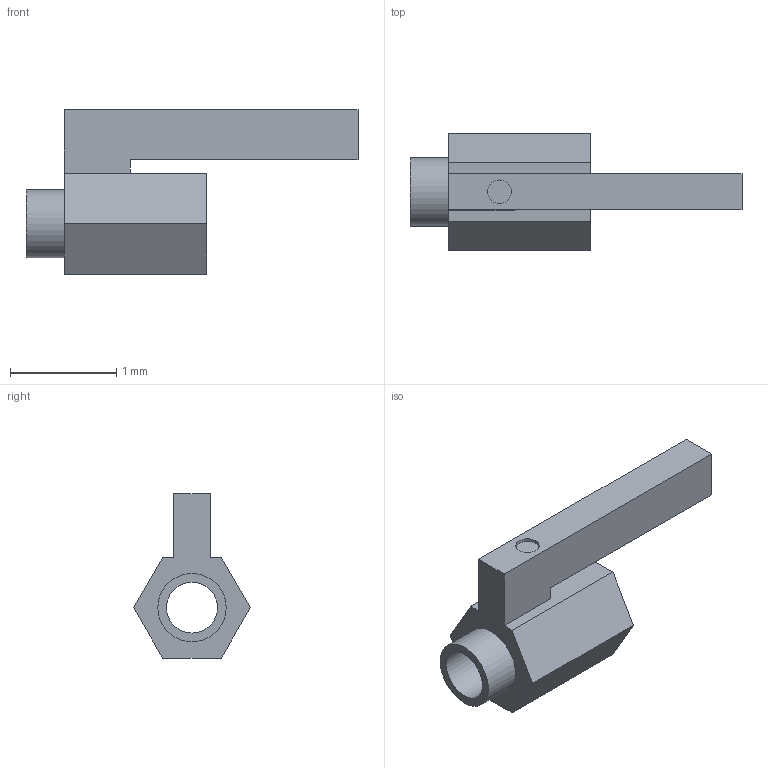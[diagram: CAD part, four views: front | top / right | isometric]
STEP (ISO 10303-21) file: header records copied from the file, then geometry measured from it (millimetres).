
FILE_DESCRIPTION(('Open CASCADE Model'),'2;1');
FILE_NAME('Open CASCADE Shape Model','2021-09-23T15:28:18',('Author'),( 'Open CASCADE'),'Open CASCADE STEP processor 7.3','Open CASCADE 7.3' ,'Unknown');
FILE_SCHEMA(('AUTOMOTIVE_DESIGN { 1 0 10303 214 1 1 1 1 }'));
Length unit declared in the file: millimetre
Products named in the file (1): Open CASCADE STEP translator 7.3 1
Bounding box: 3.12 x 1.1 x 1.54 mm (x, y, z)
Volume: 1.2 mm3; surface area: 13.9 mm2
Topology: 1 solids, 1 shells, 21 faces, 49 edges, 33 vertices
Faces by surface type: plane 17, cylinder 4
Full cylindrical faces by diameter (mm): 0.223 x1, 0.478 x1, 0.574 x1, 0.642 x1
Entity records: 1271 total; most frequent: CARTESIAN_POINT 254, DIRECTION 188, LINE 125, VECTOR 125, ORIENTED_EDGE 98, PCURVE 98, DEFINITIONAL_REPRESENTATION 98, EDGE_CURVE 49
